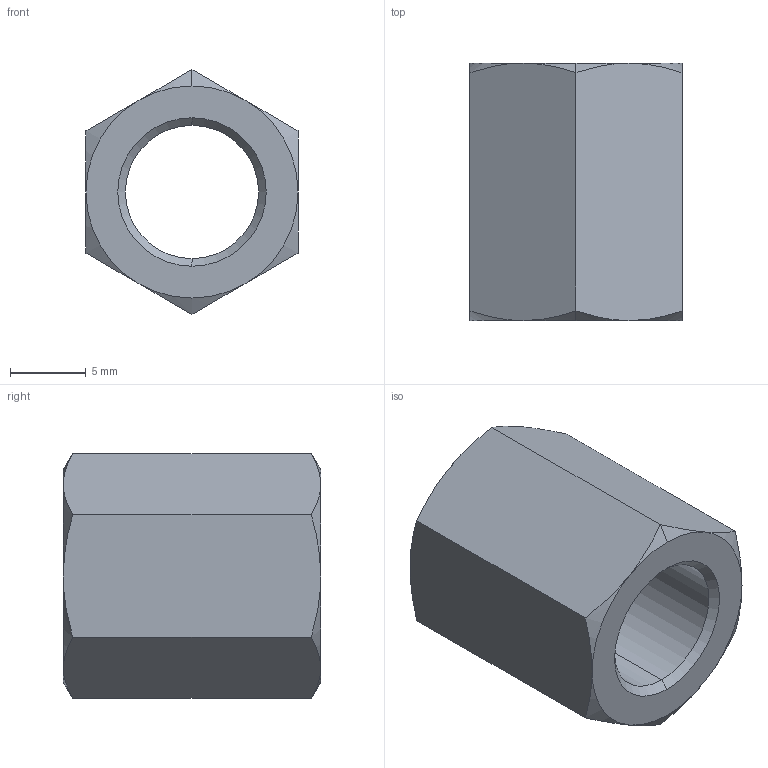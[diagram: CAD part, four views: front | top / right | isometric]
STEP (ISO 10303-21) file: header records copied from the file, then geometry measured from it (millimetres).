
FILE_DESCRIPTION (( 'STEP AP203' ), '1' );
FILE_NAME ('BXH02 B1B1 00.STEP', '2018-10-27T11:57:42', ( '' ), ( '' ), 'SwSTEP 2.0', 'SolidWorks 2013', '' );
FILE_SCHEMA (( 'CONFIG_CONTROL_DESIGN' ));
Length unit declared in the file: millimetre
Products named in the file (1): BXH02 B1B1 00
Bounding box: 14 x 17 x 16.17 mm (x, y, z)
Volume: 1838.5 mm3; surface area: 1480.8 mm2
Topology: 1 solids, 1 shells, 28 faces, 60 edges, 34 vertices
Faces by surface type: cone 18, plane 8, cylinder 2
Entity records: 911 total; most frequent: CARTESIAN_POINT 259, ORIENTED_EDGE 120, DIRECTION 116, EDGE_CURVE 60, AXIS2_PLACEMENT_3D 51, VERTEX_POINT 34, EDGE_LOOP 30, FACE_OUTER_BOUND 28
